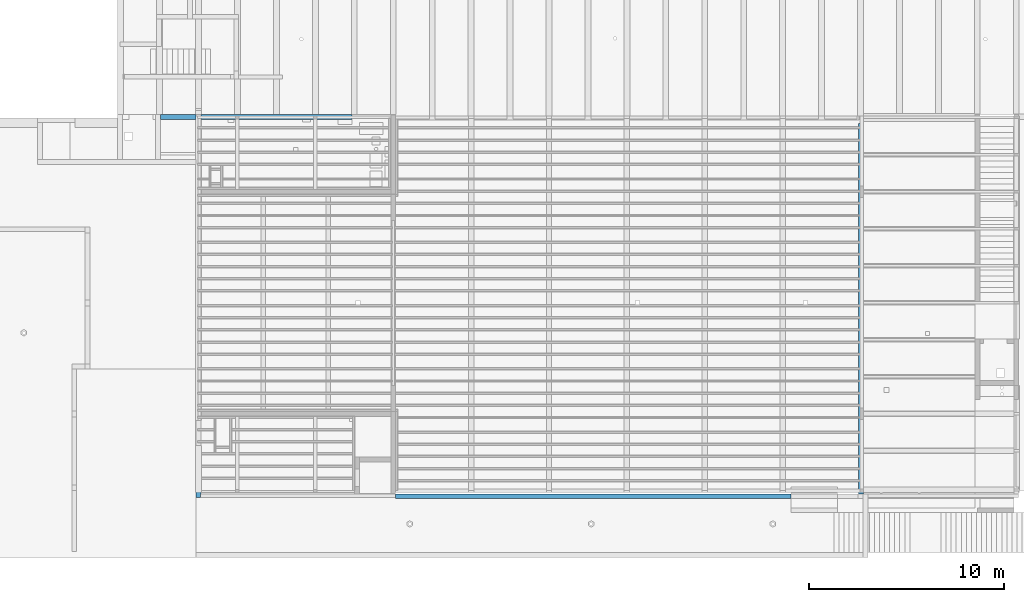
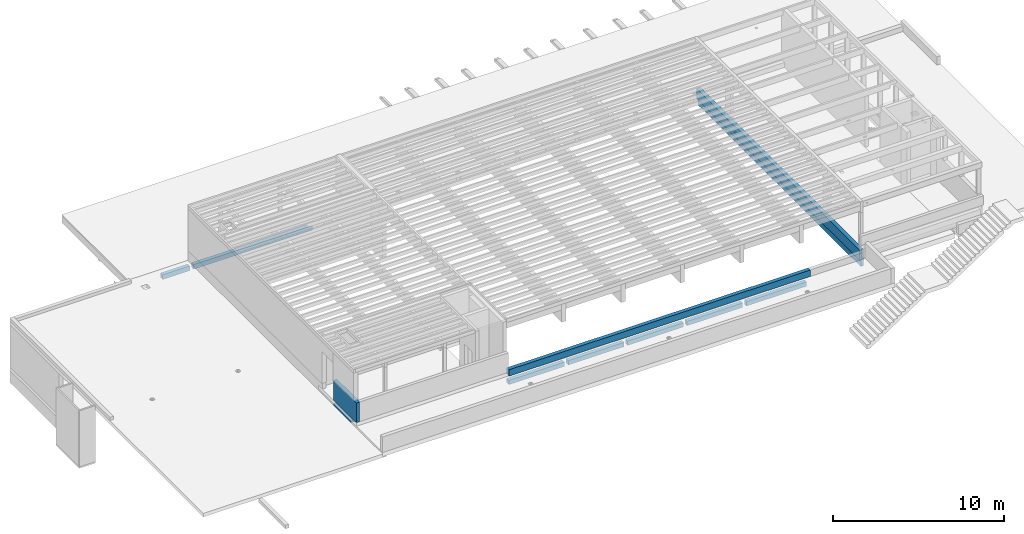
# One storey, part 12 of 14: 4 beams.
"""IFC2X3 building model written with IfcOpenShell, lengths in metres."""

from ifc_helpers import new_model, entity, si_unit, converted_unit, direction, frame, origin, place, context, subcontext, project, spatial, faceted_brep, source, transform, mapped, material, type_object, type_shapes, element, save


model = new_model("IFC2X3")

# Units and contexts
model_context = context("Model", 3, precision=1e-05, world=frame((30.086303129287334, 2.687674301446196, 462.0)), true_north=direction((0.19008937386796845, 0.9817667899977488)))
body_context = subcontext(model_context, "Body", "Model", "MODEL_VIEW")
ifc_project = project(units=[si_unit("LENGTHUNIT", "METRE"), si_unit("AREAUNIT", "SQUARE_METRE"), converted_unit("PLANEANGLEUNIT", "DEGREE", entity("IfcPlaneAngleMeasure", 0.017453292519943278), si_unit("PLANEANGLEUNIT", "RADIAN"), dimensions=[0, 0, 0, 0, 0, 0, 0]), si_unit("VOLUMEUNIT", "CUBIC_METRE")], contexts=[model_context])

# Site, building, storey
site_placement = place(None, origin())
site = spatial("IfcSite", under=ifc_project, at=site_placement, Name="Default", CompositionType="ELEMENT")
building_placement = place(site_placement, origin())
building = spatial("IfcBuilding", under=site, at=building_placement, CompositionType="ELEMENT")
storey_placement = place(building_placement, origin())
storey = spatial("IfcBuildingStorey", under=building, at=storey_placement, Name="FB_E00_OKFB", CompositionType="ELEMENT", Elevation=0.0)

# Beams
ifc_material_1 = material(Name="WS_CONCRETE_REINFORCED")
beam_type_1 = type_object("IfcBeamType", Name="WS_CBM_REC:CBM_REC_250x1065", PredefinedType="BEAM", material=ifc_material_1)
shared_shape_1 = source(origin(), body_context, "Body", "Brep", [
    faceted_brep([(0.0, 0.24999999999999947, 0.0), (0.0, 0.0, 0.0), (0.0, 0.0, 0.3050000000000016), (0.0, 0.24999999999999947, 0.3050000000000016), (3.750000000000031, 0.25000000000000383, 0.3050000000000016), (3.750000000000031, 0.25000000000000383, 0.0), (3.750000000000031, 0.0, 0.0), (3.750000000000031, 0.0, 0.3050000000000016)], [[[0, 1, 2, 3]], [[3, 4, 5, 0]], [[1, 0, 5, 6]], [[5, 4, 7, 6]], [[4, 3, 2, 7]], [[7, 2, 1, 6]]]),
    faceted_brep([(0.0, 0.24999999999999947, 1.065), (0.0, 0.0, 1.065), (20.307392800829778, 0.0, 1.065), (20.307392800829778, 0.12500000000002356, 1.065), (20.304999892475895, 0.12500000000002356, 1.065), (20.304999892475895, 0.25000000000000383, 1.065), (0.0, 0.0, 0.6050000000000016), (20.307392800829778, 0.0, 0.6050000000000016), (0.0, 0.25000000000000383, 0.6050000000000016), (20.304999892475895, 0.25000000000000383, 0.6050000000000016), (20.304999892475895, 0.12500000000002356, 0.6050000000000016), (20.307392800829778, 0.12500000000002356, 0.6050000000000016), (0.0, 0.050000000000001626, 0.6050000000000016), (0.0, 0.24999999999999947, 0.8550000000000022)], [[[0, 1, 2, 3, 4, 5]], [[2, 1, 6, 7]], [[8, 9, 10, 11, 7, 6, 12]], [[9, 8, 13, 0, 5]], [[3, 2, 7, 11]], [[5, 4, 10, 9]], [[1, 0, 13, 8, 12, 6]], [[4, 3, 11, 10]]]),
    faceted_brep([(4.0, 0.25000000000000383, 0.3050000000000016), (4.0, 0.25000000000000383, 0.0), (4.0, 0.0, 0.0), (4.0, 0.0, 0.3050000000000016), (7.750000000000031, 0.25000000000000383, 0.0), (7.750000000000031, 0.0, 0.0), (7.750000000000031, 0.25000000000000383, 0.3050000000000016), (7.750000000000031, 0.0, 0.3050000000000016)], [[[0, 1, 2, 3]], [[2, 1, 4, 5]], [[1, 0, 6, 4]], [[0, 3, 7, 6]], [[6, 7, 5, 4]], [[3, 2, 5, 7]]]),
    faceted_brep([(8.0, 0.0, 0.3050000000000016), (8.0, 0.25000000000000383, 0.3050000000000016), (8.0, 0.25000000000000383, 0.0), (8.0, 0.0, 0.0), (11.750000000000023, 0.25000000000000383, 0.3050000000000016), (11.750000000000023, 0.0, 0.3050000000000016), (11.750000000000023, 0.0, 0.0), (11.750000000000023, 0.25000000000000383, 0.0)], [[[0, 1, 2, 3]], [[4, 5, 6, 7]], [[1, 0, 5, 4]], [[3, 2, 7, 6]], [[2, 1, 4, 7]], [[0, 3, 6, 5]]]),
    faceted_brep([(16.0, 0.0, 0.3050000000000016), (16.0, 0.25000000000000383, 0.3050000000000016), (16.0, 0.25000000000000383, 0.0), (16.0, 0.0, 0.0), (20.054999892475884, 0.25000000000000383, 0.3050000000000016), (20.054999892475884, 0.0, 0.3050000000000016), (20.054999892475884, 0.0, 0.0), (20.054999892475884, 0.25000000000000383, 0.0)], [[[0, 1, 2, 3]], [[4, 5, 6, 7]], [[1, 0, 5, 4]], [[3, 2, 7, 6]], [[2, 1, 4, 7]], [[0, 3, 6, 5]]]),
    faceted_brep([(15.75000000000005, 0.25000000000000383, 0.3050000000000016), (15.75000000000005, 0.0, 0.3050000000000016), (15.75000000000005, 0.0, 0.0), (15.75000000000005, 0.25000000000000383, 0.0), (12.0, 0.0, 0.3050000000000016), (12.0, 0.25000000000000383, 0.3050000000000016), (12.0, 0.25000000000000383, 0.0), (12.0, 0.0, 0.0)], [[[0, 1, 2, 3]], [[4, 5, 6, 7]], [[1, 0, 5, 4]], [[3, 2, 7, 6]], [[0, 3, 6, 5]], [[2, 1, 4, 7]]]),
])
type_shapes(beam_type_1, [shared_shape_1])
beam_1_placement = place(storey_placement, frame((60.23033735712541, -20.889559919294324, 3.5449999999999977)))
element("IfcBeam", 1, at=beam_1_placement, inside=storey, type_object=beam_type_1, material=ifc_material_1, Name="WS_CBM_REC:CBM_REC_250x1065", ObjectType="WS_CBM_REC:CBM_REC_250x1065", context=body_context, shape_type="MappedRepresentation", body=[
    mapped(shared_shape_1, transform((0.0, 0.0, 0.0), scale=1.0)),
])
beam_type_2 = type_object("IfcBeamType", Name="WS_CBM_REC:CBM_REC_250x580", PredefinedType="BEAM", material=ifc_material_1)
shared_shape_2 = source(origin(), body_context, "Body", "Brep", [
    faceted_brep([(2.0749988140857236, 0.0, 0.33000000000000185), (2.0749988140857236, 0.0, 0.0), (3.849998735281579, 0.0, 0.0), (4.049998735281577, 0.0, 0.0), (10.075002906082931, 0.0, 0.0), (10.075002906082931, 0.0, 0.33000000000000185), (9.825002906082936, 0.0, 0.33000000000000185), (9.125002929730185, 0.0, 0.33000000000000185), (7.6950029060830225, 0.0, 0.33000000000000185), (7.295002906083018, 0.0, 0.33000000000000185), (3.7600009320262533, 0.0, 0.33000000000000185), (3.460000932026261, 0.0, 0.33000000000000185), (9.825002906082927, 0.2500000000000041, 0.0), (9.825002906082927, 0.0006959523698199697, 0.0), (10.075002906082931, 0.0006959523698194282, 0.0), (2.0749988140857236, 0.25000000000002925, 0.0), (3.849998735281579, 0.2500000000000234, 0.0), (4.049998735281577, 0.25000000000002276, 0.0), (9.825002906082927, 0.2500000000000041, 0.33000000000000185), (2.0749988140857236, 0.25000000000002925, 0.33000000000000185), (10.075002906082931, 0.0006959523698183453, 0.33000000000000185), (9.825002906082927, 0.0006959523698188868, 0.33000000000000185)], [[[0, 1, 2, 3, 4, 5, 6, 7, 8, 9, 10, 11]], [[12, 13, 14, 4, 3, 2, 1, 15, 16, 17]], [[18, 12, 17, 16, 15, 19]], [[20, 5, 4, 14]], [[13, 12, 18, 21]], [[19, 0, 11, 10, 9, 8, 7, 6, 5, 20, 21, 18]], [[1, 0, 19, 15]], [[13, 21, 20, 14]]]),
    faceted_brep([(1.8249988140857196, 0.0, 0.33000000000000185), (1.8249988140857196, 0.0, 0.0), (1.8249988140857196, 0.2500000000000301, 0.0), (1.8249988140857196, 0.25000000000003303, 0.33000000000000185), (0.0, 0.0, 0.33000000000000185), (0.0, 0.0, 0.0), (0.0, 0.2500000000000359, 0.33000000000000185), (0.0, 0.2500000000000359, 0.0)], [[[0, 1, 2, 3]], [[1, 0, 4, 5]], [[5, 4, 6, 7]], [[2, 1, 5, 7]], [[3, 2, 7, 6]], [[0, 3, 6, 4]]]),
])
type_shapes(beam_type_2, [shared_shape_2])
beam_2_placement = place(storey_placement, frame((48.15533862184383, -1.4196478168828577, 3.4549999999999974)))
element("IfcBeam", 2, at=beam_2_placement, inside=storey, type_object=beam_type_2, material=ifc_material_1, Name="WS_CBM_REC:CBM_REC_250x580", ObjectType="WS_CBM_REC:CBM_REC_250x580", context=body_context, shape_type="MappedRepresentation", body=[
    mapped(shared_shape_2, transform((0.0, 0.0, 0.0), scale=1.0)),
])
beam_type_3 = type_object("IfcBeamType", Name="WS_CBM_UPST_REC:CBM_UPST_REC_250x2015", PredefinedType="BEAM", material=ifc_material_1)
shared_shape_3 = source(origin(), body_context, "Body", "Brep", [
    faceted_brep([(0.0, 2.682550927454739, 1.7649999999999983), (0.0, 0.0, 1.7649999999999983), (0.22000001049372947, 0.0, 1.7649999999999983), (0.22000001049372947, 0.2000000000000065, 1.7649999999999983), (0.25000000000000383, 0.2000000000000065, 1.7649999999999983), (0.25000000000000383, 2.682550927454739, 1.7649999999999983), (0.0, 2.682550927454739, 0.3649999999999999), (0.0, 0.0, 0.3649999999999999), (0.25000000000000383, 2.682550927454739, 0.3649999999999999), (0.25000000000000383, 0.2000000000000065, 0.3649999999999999), (0.22000001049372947, 0.2000000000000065, 0.3649999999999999), (0.22000001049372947, 0.0, 0.3649999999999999)], [[[0, 1, 2, 3, 4, 5]], [[1, 0, 6, 7]], [[7, 6, 8, 9, 10, 11]], [[0, 5, 8, 6]], [[10, 3, 2, 11]], [[3, 10, 9, 4]], [[1, 7, 11, 2]], [[8, 5, 4, 9]]]),
    faceted_brep([(0.25000000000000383, 0.6049109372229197, 0.0), (0.25000000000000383, 2.682550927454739, 0.0), (0.25000000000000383, 2.682550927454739, 0.11499999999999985), (0.25000000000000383, 0.6049109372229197, 0.11499999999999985), (0.0, 2.682550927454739, 0.0), (0.0, 0.6049109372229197, 0.0), (0.0, 2.682550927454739, 0.11499999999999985), (0.0, 0.6049109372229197, 0.11499999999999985)], [[[0, 1, 2, 3]], [[4, 1, 0, 5]], [[2, 6, 7, 3]], [[1, 4, 6, 2]], [[0, 3, 7, 5]], [[6, 4, 5, 7]]]),
])
type_shapes(beam_type_3, [shared_shape_3])
beam_3_placement = place(storey_placement, frame((49.98033735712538, -20.83955991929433, 4.035)))
element("IfcBeam", 3, at=beam_3_placement, inside=storey, type_object=beam_type_3, material=ifc_material_1, Name="WS_CBM_UPST_REC:CBM_UPST_REC_250x2015", ObjectType="WS_CBM_UPST_REC:CBM_UPST_REC_250x2015", context=body_context, shape_type="MappedRepresentation", body=[
    mapped(shared_shape_3, transform((0.0, 0.0, 0.0), scale=1.0)),
])
ifc_material_2 = material(Name="WS_TIMBER_GLT_0°")
beam_type_4 = type_object("IfcBeamType", Name="WS_TBM_GLT:TBM_GLT_260/1200", PredefinedType="BEAM")
beam_4_placement = place(storey_placement, frame((83.9953391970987, -20.639559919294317, 3.4549999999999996), z_axis=(0.0, 0.0, 1.0), x_axis=(0.0, -1.0, 0.0)))
element("IfcBeam", 4, at=beam_4_placement, inside=storey, type_object=beam_type_4, material=ifc_material_2, Name="WS_TBM_GLT:TBM_GLT_260/1200", ObjectType="WS_TBM_GLT:TBM_GLT_260/1200", context=body_context, shape_type="Brep", body=[
    faceted_brep([(-19.004957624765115, 0.0, 1.199999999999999), (-19.004957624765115, 0.25999999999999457, 1.199999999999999), (-19.004957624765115, 0.25999999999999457, 0.0), (-19.004957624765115, 0.08000000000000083, 0.0), (-19.004957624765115, 0.08000000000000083, 0.47999999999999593), (-19.004957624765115, 0.0, 0.47999999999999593), (0.0, 0.2599999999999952, 0.0), (0.0, 0.2599999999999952, 1.199999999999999), (0.0, 0.0, 1.199999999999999), (0.0, 0.0, 0.47999999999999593), (0.0, 0.08000000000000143, 0.47999999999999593), (0.0, 0.08000000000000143, 0.0), (-18.185607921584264, 0.08000000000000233, 0.0), (-18.185607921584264, 0.2600000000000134, 0.0), (-0.685569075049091, 0.2600000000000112, 0.0), (-0.6855690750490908, 0.08000000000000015, 0.0), (-0.5655690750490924, 0.26000000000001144, 0.0), (-0.5655690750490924, 0.26000000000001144, 0.12000000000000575), (-0.685569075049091, 0.2600000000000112, 0.12000000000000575), (-18.185607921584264, 0.2600000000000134, 0.1200000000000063), (-18.30560792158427, 0.26000000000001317, 0.1200000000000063), (-18.30560792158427, 0.26000000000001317, 0.0), (-18.305607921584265, 0.08000000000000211, 0.0), (-18.305607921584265, 0.08000000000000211, 0.1200000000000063), (-18.185607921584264, 0.08000000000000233, 0.1200000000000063), (-0.6855690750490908, 0.08000000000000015, 0.12000000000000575), (-0.565569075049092, 0.08000000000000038, 0.12000000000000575), (-0.565569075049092, 0.08000000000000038, 0.0)], [[[0, 1, 2, 3, 4, 5]], [[6, 7, 8, 9, 10, 11]], [[1, 0, 8, 7]], [[12, 13, 14, 15]], [[2, 1, 7, 6, 16, 17, 18, 14, 13, 19, 20, 21]], [[8, 0, 5, 9]], [[10, 4, 3, 22, 23, 24, 12, 15, 25, 26, 27, 11]], [[4, 10, 9, 5]], [[19, 24, 23, 20]], [[24, 19, 13, 12]], [[20, 23, 22, 21]], [[17, 26, 25, 18]], [[26, 17, 16, 27]], [[18, 25, 15, 14]], [[6, 11, 27, 16]], [[3, 2, 21, 22]]]),
])

save(model, "model.ifc")
